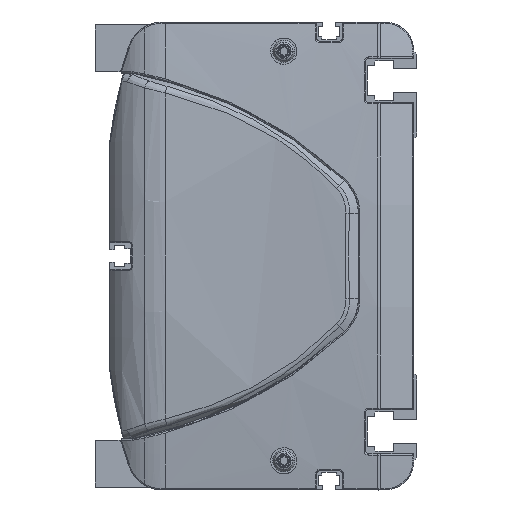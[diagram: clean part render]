
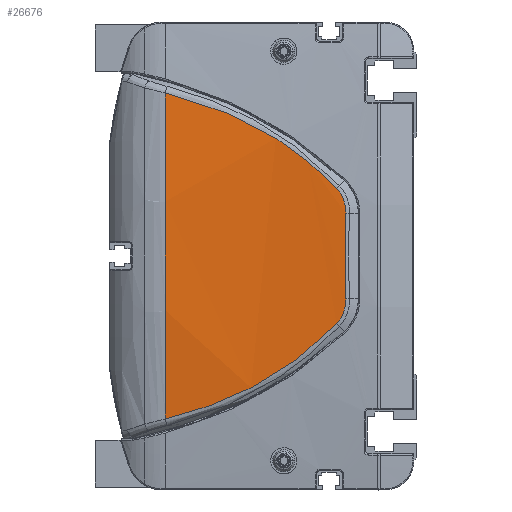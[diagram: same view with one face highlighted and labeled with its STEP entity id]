
A CAD part, left-side view. The second image highlights one B-rep face of the part: STEP entity #26676.
In plain terms, the highlighted cylindrical face has radius 600 mm (diameter 1200 mm), a partial arc.
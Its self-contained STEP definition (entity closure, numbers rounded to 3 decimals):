
#7188=CARTESIAN_POINT('',(-12.406,86.,55.736));
#7189=CARTESIAN_POINT('',(-12.529,80.495,54.41));
#7190=CARTESIAN_POINT('',(-12.828,69.636,51.114));
#7191=CARTESIAN_POINT('',(-13.389,54.079,44.179));
#7192=CARTESIAN_POINT('',(-14.01,39.709,34.979));
#7193=CARTESIAN_POINT('',(-14.395,31.353,27.243));
#7194=CARTESIAN_POINT('',(-14.555,27.451,23.113));
#7196=CARTESIAN_POINT('',(-14.555,27.451,23.113));
#7197=CARTESIAN_POINT('',(-14.598,26.394,21.994));
#7198=CARTESIAN_POINT('',(-14.695,24.746,19.315));
#7199=CARTESIAN_POINT('',(-14.783,24.276,16.208));
#7200=CARTESIAN_POINT('',(-14.821,24.351,14.67));
#7202=CARTESIAN_POINT('',(-14.821,24.351,14.67));
#7203=CARTESIAN_POINT('',(-14.9,24.51,11.413));
#7204=CARTESIAN_POINT('',(-15.007,24.721,4.895));
#7205=CARTESIAN_POINT('',(-15.007,24.721,
-4.895));
#7206=CARTESIAN_POINT('',(-14.9,24.51,
-11.413));
#7207=CARTESIAN_POINT('',(-14.821,24.351,
-14.67));
#7209=CARTESIAN_POINT('',(-14.821,24.351,
-14.67));
#7210=CARTESIAN_POINT('',(-14.783,24.276,
-16.208));
#7211=CARTESIAN_POINT('',(-14.695,24.746,
-19.315));
#7212=CARTESIAN_POINT('',(-14.598,26.394,
-21.995));
#7213=CARTESIAN_POINT('',(-14.555,27.451,
-23.113));
#7215=CARTESIAN_POINT('',(-14.555,27.451,
-23.113));
#7216=CARTESIAN_POINT('',(-14.395,31.353,
-27.243));
#7217=CARTESIAN_POINT('',(-14.01,39.709,
-34.979));
#7218=CARTESIAN_POINT('',(-13.389,54.079,
-44.179));
#7219=CARTESIAN_POINT('',(-12.828,69.636,
-51.114));
#7220=CARTESIAN_POINT('',(-12.529,80.495,
-54.41));
#7221=CARTESIAN_POINT('',(-12.406,86.,
-55.736));
#7223=CARTESIAN_POINT('',(585.,86.,0.));
#7224=DIRECTION('',(0.,1.,0.));
#7225=DIRECTION('',(-0.996,0.,-0.093));
#7226=AXIS2_PLACEMENT_3D('',#7223,#7224,#7225);
#7239=CARTESIAN_POINT('',(-12.406,86.,55.736));
#13067=VERTEX_POINT('',#7239);
#13068=CARTESIAN_POINT('',(-12.406,86.,
-55.736));
#13069=VERTEX_POINT('',#13068);
#13119=VERTEX_POINT('',#7194);
#13120=VERTEX_POINT('',#7200);
#13121=VERTEX_POINT('',#7207);
#13122=VERTEX_POINT('',#7213);
#26658=CARTESIAN_POINT('',(585.,87.45,0.));
#26659=DIRECTION('',(0.,-1.,0.));
#26660=DIRECTION('',(0.,0.,-1.));
#26661=AXIS2_PLACEMENT_3D('',#26658,#26659,#26660);
#26662=CYLINDRICAL_SURFACE('',#26661,600.);
#26664=ORIENTED_EDGE('',*,*,#26663,.T.);
#26666=ORIENTED_EDGE('',*,*,#26665,.T.);
#26667=ORIENTED_EDGE('',*,*,#26648,.T.);
#26669=ORIENTED_EDGE('',*,*,#26668,.T.);
#26671=ORIENTED_EDGE('',*,*,#26670,.T.);
#26673=ORIENTED_EDGE('',*,*,#26672,.T.);
#26674=EDGE_LOOP('',(#26664,#26666,#26667,#26669,#26671,#26673));
#26675=FACE_OUTER_BOUND('',#26674,.F.);
#26676=ADVANCED_FACE('',(#26675),#26662,.T.);
#7195=B_SPLINE_CURVE_WITH_KNOTS('',3,(#7188,#7189,#7190,#7191,#7192,#7193,
#7194),.UNSPECIFIED.,.F.,.F.,(4,1,1,1,4),(0.,0.25,0.5,0.75,1.),
.UNSPECIFIED.);
#7201=B_SPLINE_CURVE_WITH_KNOTS('',3,(#7196,#7197,#7198,#7199,#7200),
.UNSPECIFIED.,.F.,.F.,(4,1,4),(0.,0.5,1.),.UNSPECIFIED.);
#7208=B_SPLINE_CURVE_WITH_KNOTS('',3,(#7202,#7203,#7204,#7205,#7206,#7207),
.UNSPECIFIED.,.F.,.F.,(4,1,1,4),(0.,0.333,0.667,1.),
.UNSPECIFIED.);
#7214=B_SPLINE_CURVE_WITH_KNOTS('',3,(#7209,#7210,#7211,#7212,#7213),
.UNSPECIFIED.,.F.,.F.,(4,1,4),(0.,0.5,1.),.UNSPECIFIED.);
#7222=B_SPLINE_CURVE_WITH_KNOTS('',3,(#7215,#7216,#7217,#7218,#7219,#7220,
#7221),.UNSPECIFIED.,.F.,.F.,(4,1,1,1,4),(0.,0.25,0.5,0.75,1.),
.UNSPECIFIED.);
#7227=CIRCLE('',#7226,600.);
#26648=EDGE_CURVE('',#13120,#13121,#7208,.T.);
#26663=EDGE_CURVE('',#13067,#13119,#7195,.T.);
#26665=EDGE_CURVE('',#13119,#13120,#7201,.T.);
#26668=EDGE_CURVE('',#13121,#13122,#7214,.T.);
#26670=EDGE_CURVE('',#13122,#13069,#7222,.T.);
#26672=EDGE_CURVE('',#13069,#13067,#7227,.T.);
